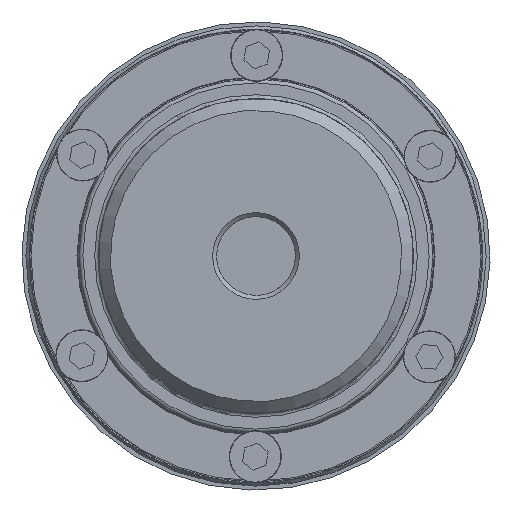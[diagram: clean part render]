
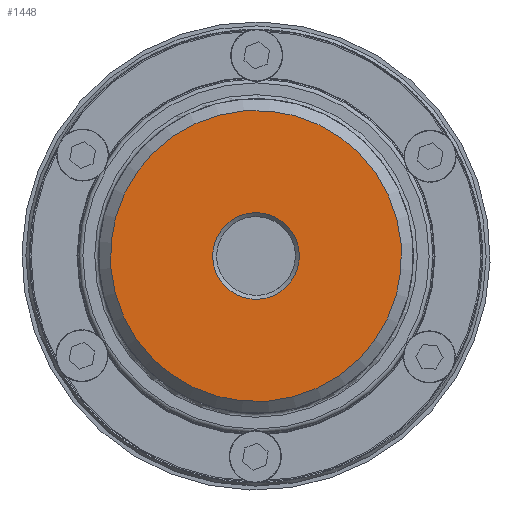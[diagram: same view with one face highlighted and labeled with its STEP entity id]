
A CAD part, left-side view. The second image highlights one B-rep face of the part: STEP entity #1448.
In plain terms, the highlighted planar face has unit normal (-1, 0, 0) as drawn and (0, 0, -1) by its records, which use the part's own axes.
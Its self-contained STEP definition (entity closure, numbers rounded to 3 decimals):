
#1448 = ADVANCED_FACE( '', ( #2909, #2910 ), #2911, .T. );
#2909 = FACE_OUTER_BOUND( '', #4576, .T. );
#2910 = FACE_BOUND( '', #4577, .T. );
#2911 = PLANE( '', #4578 );
#4576 = EDGE_LOOP( '', ( #6837 ) );
#4577 = EDGE_LOOP( '', ( #6838 ) );
#4578 = AXIS2_PLACEMENT_3D( '', #6839, #6840, #6841 );
#6837 = ORIENTED_EDGE( '', *, *, #9057, .T. );
#6838 = ORIENTED_EDGE( '', *, *, #8667, .T. );
#6839 = CARTESIAN_POINT( '', ( 0., 0., 0. ) );
#6840 = DIRECTION( '', ( 0., 0., -1. ) );
#6841 = DIRECTION( '', ( -1., 0., 0. ) );
#8667 = EDGE_CURVE( '', #9922, #9922, #9923, .F. );
#9057 = EDGE_CURVE( '', #10557, #10557, #10558, .T. );
#9922 = VERTEX_POINT( '', #11729 );
#9923 = CIRCLE( '', #11730, 11. );
#10557 = VERTEX_POINT( '', #12610 );
#10558 = CIRCLE( '', #12611, 37. );
#11729 = CARTESIAN_POINT( '', ( -11., 0., 0. ) );
#11730 = AXIS2_PLACEMENT_3D( '', #14487, #14488, #14489 );
#12610 = CARTESIAN_POINT( '', ( -37., 0., 0. ) );
#12611 = AXIS2_PLACEMENT_3D( '', #15106, #15107, #15108 );
#14487 = CARTESIAN_POINT( '', ( 0., 0., 0. ) );
#14488 = DIRECTION( '', ( 0., 0., -1. ) );
#14489 = DIRECTION( '', ( -1., 0., 0. ) );
#15106 = CARTESIAN_POINT( '', ( 0., 0., 0. ) );
#15107 = DIRECTION( '', ( 0., 0., -1. ) );
#15108 = DIRECTION( '', ( -1., 0., 0. ) );
